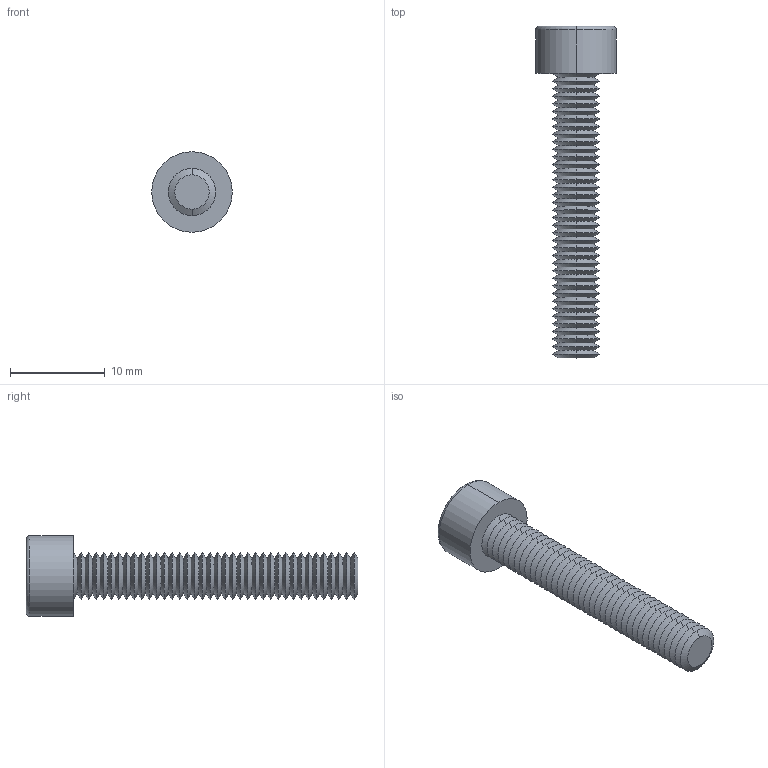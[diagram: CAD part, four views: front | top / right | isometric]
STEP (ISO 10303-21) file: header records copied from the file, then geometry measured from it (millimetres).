
FILE_DESCRIPTION (( 'STEP AP203' ), '1' );
FILE_NAME ('91N.050.0300.step', '2025-05-20T08:52:03', ( '' ), ( '' ), 'SwSTEP 2.0', 'SolidWorks 2019', '' );
FILE_SCHEMA (( 'CONFIG_CONTROL_DESIGN' ));
Length unit declared in the file: millimetre
Products named in the file (1): 91N.050.0300
Bounding box: 8.5 x 35 x 8.5 mm (x, y, z)
Volume: 663.4 mm3; surface area: 1101.6 mm2
Topology: 1 solids, 1 shells, 178 faces, 355 edges, 179 vertices
Faces by surface type: cone 159, plane 15, cylinder 2, torus 2
Entity records: 4528 total; most frequent: DIRECTION 877, CARTESIAN_POINT 738, ORIENTED_EDGE 706, EDGE_CURVE 353, AXIS2_PLACEMENT_3D 352, EDGE_LOOP 180, VERTEX_POINT 179, FACE_OUTER_BOUND 178
